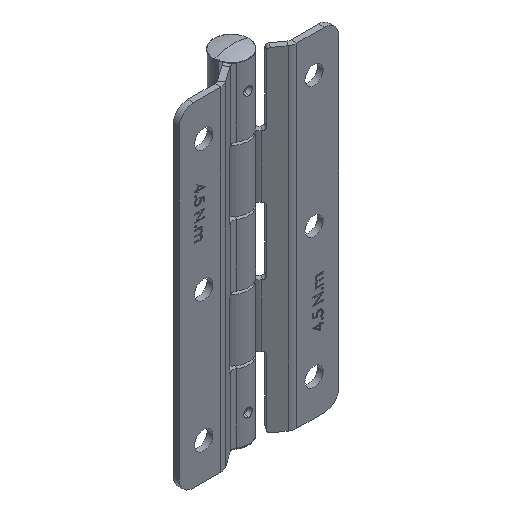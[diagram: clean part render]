
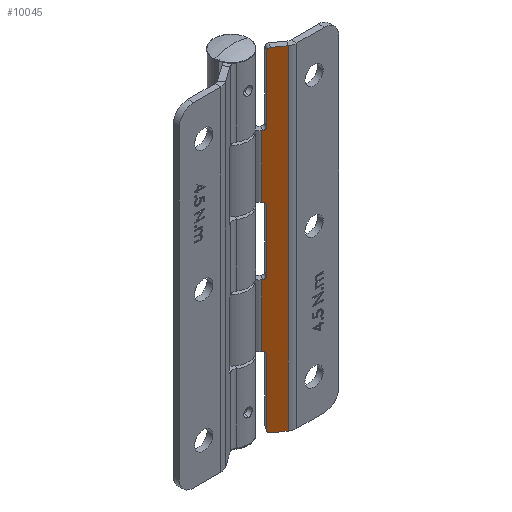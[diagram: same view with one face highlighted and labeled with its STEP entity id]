
A CAD part, isometric view. The second image highlights one B-rep face of the part: STEP entity #10045.
In plain terms, the highlighted planar face has unit normal (-0.574, -0.819, 0).
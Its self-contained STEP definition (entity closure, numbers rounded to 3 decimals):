
#80 = AXIS2_PLACEMENT_3D ( 'NONE', #2752, #7520, #821 ) ;
#105 = EDGE_CURVE ( 'NONE', #864, #7307, #2747, .T. ) ;
#236 = CARTESIAN_POINT ( 'NONE',  ( 5.57, -5.121, -11.575 ) ) ;
#290 = CARTESIAN_POINT ( 'NONE',  ( 6.389, -5.695, 57.5 ) ) ;
#351 = AXIS2_PLACEMENT_3D ( 'NONE', #5646, #8689, #4711 ) ;
#474 = DIRECTION ( 'NONE',  ( 0., 0., -1. ) ) ;
#597 = EDGE_CURVE ( 'NONE', #11586, #11218, #4581, .T. ) ;
#674 = DIRECTION ( 'NONE',  ( 0.819, -0.574, 0. ) ) ;
#691 = CARTESIAN_POINT ( 'NONE',  ( 6.389, -5.695, 10.575 ) ) ;
#704 = EDGE_CURVE ( 'NONE', #7263, #864, #10550, .T. ) ;
#821 = DIRECTION ( 'NONE',  ( -0.819, 0.574, 0. ) ) ;
#864 = VERTEX_POINT ( 'NONE', #5020 ) ;
#1173 = ORIENTED_EDGE ( 'NONE', *, *, #1417, .T. ) ;
#1217 = ORIENTED_EDGE ( 'NONE', *, *, #5138, .T. ) ;
#1363 = CARTESIAN_POINT ( 'NONE',  ( 5.57, -5.121, 33.925 ) ) ;
#1402 = FACE_OUTER_BOUND ( 'NONE', #7353, .T. ) ;
#1417 = EDGE_CURVE ( 'NONE', #10744, #11586, #10141, .T. ) ;
#1433 = EDGE_CURVE ( 'NONE', #7307, #8827, #4839, .T. ) ;
#1483 = CARTESIAN_POINT ( 'NONE',  ( 5.57, -5.121, -33.925 ) ) ;
#1581 = EDGE_CURVE ( 'NONE', #1619, #6875, #6654, .T. ) ;
#1619 = VERTEX_POINT ( 'NONE', #6158 ) ;
#1693 = CARTESIAN_POINT ( 'NONE',  ( 10.791, -8.777, 32.925 ) ) ;
#1724 = CIRCLE ( 'NONE', #11848, 1. ) ;
#1766 = EDGE_CURVE ( 'NONE', #6875, #7531, #5106, .T. ) ;
#1804 = CARTESIAN_POINT ( 'NONE',  ( 10.791, -8.777, -32.925 ) ) ;
#1815 = EDGE_CURVE ( 'NONE', #11086, #3284, #3711, .T. ) ;
#1844 = ORIENTED_EDGE ( 'NONE', *, *, #105, .T. ) ;
#1900 = CARTESIAN_POINT ( 'NONE',  ( 7.208, -6.268, 56.5 ) ) ;
#1939 = ORIENTED_EDGE ( 'NONE', *, *, #2032, .T. ) ;
#2032 = EDGE_CURVE ( 'NONE', #9567, #11086, #4880, .T. ) ;
#2280 = ORIENTED_EDGE ( 'NONE', *, *, #3240, .T. ) ;
#2486 = VERTEX_POINT ( 'NONE', #11515 ) ;
#2732 = VECTOR ( 'NONE', #10732, 1000. ) ;
#2747 = LINE ( 'NONE', #6526, #5246 ) ;
#2752 = CARTESIAN_POINT ( 'NONE',  ( 5.57, -5.121, 10.575 ) ) ;
#2837 = ORIENTED_EDGE ( 'NONE', *, *, #12049, .T. ) ;
#2901 = VECTOR ( 'NONE', #3063, 1000. ) ;
#3029 = CARTESIAN_POINT ( 'NONE',  ( 7.208, -6.268, 57.5 ) ) ;
#3063 = DIRECTION ( 'NONE',  ( 0.819, -0.574, 0. ) ) ;
#3068 = VECTOR ( 'NONE', #11253, 1000. ) ;
#3194 = CARTESIAN_POINT ( 'NONE',  ( 10.791, -8.777, -57.5 ) ) ;
#3201 = CARTESIAN_POINT ( 'NONE',  ( 5.57, -5.121, 32.925 ) ) ;
#3240 = EDGE_CURVE ( 'NONE', #9580, #9567, #1724, .T. ) ;
#3255 = ORIENTED_EDGE ( 'NONE', *, *, #1433, .T. ) ;
#3284 = VERTEX_POINT ( 'NONE', #3201 ) ;
#3327 = CARTESIAN_POINT ( 'NONE',  ( 5.57, -5.121, 11.575 ) ) ;
#3381 = LINE ( 'NONE', #8159, #4623 ) ;
#3494 = VERTEX_POINT ( 'NONE', #8097 ) ;
#3524 = CARTESIAN_POINT ( 'NONE',  ( 5.57, -5.121, -32.925 ) ) ;
#3527 = LINE ( 'NONE', #4279, #10499 ) ;
#3711 = CIRCLE ( 'NONE', #12254, 1. ) ;
#4152 = ORIENTED_EDGE ( 'NONE', *, *, #9993, .F. ) ;
#4218 = DIRECTION ( 'NONE',  ( -0.819, 0.574, 0. ) ) ;
#4279 = CARTESIAN_POINT ( 'NONE',  ( 10.791, -8.777, -11.575 ) ) ;
#4446 = CIRCLE ( 'NONE', #8822, 1. ) ;
#4581 = LINE ( 'NONE', #1804, #7015 ) ;
#4623 = VECTOR ( 'NONE', #474, 1000. ) ;
#4658 = LINE ( 'NONE', #1693, #7814 ) ;
#4707 = DIRECTION ( 'NONE',  ( 0., 0., -1. ) ) ;
#4711 = DIRECTION ( 'NONE',  ( -0.819, 0.574, 0. ) ) ;
#4744 = DIRECTION ( 'NONE',  ( -0.574, -0.819, 0. ) ) ;
#4788 = DIRECTION ( 'NONE',  ( 0., 0., -1. ) ) ;
#4829 = CIRCLE ( 'NONE', #6611, 1. ) ;
#4839 = CIRCLE ( 'NONE', #80, 1. ) ;
#4880 = LINE ( 'NONE', #290, #2732 ) ;
#5020 = CARTESIAN_POINT ( 'NONE',  ( 5.413, -5.011, 11.575 ) ) ;
#5030 = CARTESIAN_POINT ( 'NONE',  ( 6.389, -5.695, 57.5 ) ) ;
#5091 = DIRECTION ( 'NONE',  ( -0.819, 0.574, 0. ) ) ;
#5106 = CIRCLE ( 'NONE', #351, 1. ) ;
#5138 = EDGE_CURVE ( 'NONE', #8827, #6635, #7013, .T. ) ;
#5149 = DIRECTION ( 'NONE',  ( 0.574, 0.819, 0. ) ) ;
#5184 = DIRECTION ( 'NONE',  ( 0.574, 0.819, 0. ) ) ;
#5246 = VECTOR ( 'NONE', #5591, 1000. ) ;
#5327 = EDGE_CURVE ( 'NONE', #9580, #2486, #7368, .T. ) ;
#5366 = EDGE_CURVE ( 'NONE', #8265, #10744, #3527, .T. ) ;
#5498 = VECTOR ( 'NONE', #4788, 1000. ) ;
#5591 = DIRECTION ( 'NONE',  ( 0.819, -0.574, 0. ) ) ;
#5646 = CARTESIAN_POINT ( 'NONE',  ( 7.208, -6.268, -56.5 ) ) ;
#5901 = DIRECTION ( 'NONE',  ( 0., 0., -1. ) ) ;
#5983 = LINE ( 'NONE', #3194, #2901 ) ;
#6158 = CARTESIAN_POINT ( 'NONE',  ( 6.389, -5.695, -33.925 ) ) ;
#6332 = VECTOR ( 'NONE', #5901, 1000. ) ;
#6355 = CARTESIAN_POINT ( 'NONE',  ( 5.413, -5.011, 57.5 ) ) ;
#6411 = AXIS2_PLACEMENT_3D ( 'NONE', #7170, #5184, #8981 ) ;
#6482 = DIRECTION ( 'NONE',  ( -0.819, 0.574, 0. ) ) ;
#6526 = CARTESIAN_POINT ( 'NONE',  ( 10.791, -8.777, 11.575 ) ) ;
#6611 = AXIS2_PLACEMENT_3D ( 'NONE', #7458, #10382, #12128 ) ;
#6635 = VERTEX_POINT ( 'NONE', #11094 ) ;
#6654 = LINE ( 'NONE', #10447, #5498 ) ;
#6718 = CARTESIAN_POINT ( 'NONE',  ( 5.413, -5.011, -32.925 ) ) ;
#6755 = CARTESIAN_POINT ( 'NONE',  ( 6.389, -5.695, 33.925 ) ) ;
#6875 = VERTEX_POINT ( 'NONE', #10692 ) ;
#7013 = LINE ( 'NONE', #5030, #6332 ) ;
#7015 = VECTOR ( 'NONE', #9244, 1000. ) ;
#7170 = CARTESIAN_POINT ( 'NONE',  ( 10.791, -8.777, 57.5 ) ) ;
#7219 = VECTOR ( 'NONE', #4707, 1000. ) ;
#7263 = VERTEX_POINT ( 'NONE', #8791 ) ;
#7307 = VERTEX_POINT ( 'NONE', #3327 ) ;
#7316 = DIRECTION ( 'NONE',  ( -0.819, 0.574, 0. ) ) ;
#7353 = EDGE_LOOP ( 'NONE', ( #7504, #2280, #1939, #11327, #12052, #9643, #1844, #3255, #1217, #8545, #7817, #1173, #8046, #2837, #11331, #8534, #7768, #4152 ) ) ;
#7368 = LINE ( 'NONE', #11047, #8511 ) ;
#7458 = CARTESIAN_POINT ( 'NONE',  ( 5.57, -5.121, -10.575 ) ) ;
#7504 = ORIENTED_EDGE ( 'NONE', *, *, #5327, .F. ) ;
#7520 = DIRECTION ( 'NONE',  ( 0.574, 0.819, 0. ) ) ;
#7531 = VERTEX_POINT ( 'NONE', #10330 ) ;
#7691 = CARTESIAN_POINT ( 'NONE',  ( 5.413, -5.011, 57.5 ) ) ;
#7727 = EDGE_CURVE ( 'NONE', #7531, #3494, #5983, .T. ) ;
#7768 = ORIENTED_EDGE ( 'NONE', *, *, #7727, .T. ) ;
#7814 = VECTOR ( 'NONE', #8269, 1000. ) ;
#7817 = ORIENTED_EDGE ( 'NONE', *, *, #5366, .T. ) ;
#8046 = ORIENTED_EDGE ( 'NONE', *, *, #597, .T. ) ;
#8097 = CARTESIAN_POINT ( 'NONE',  ( 10.791, -8.777, -57.5 ) ) ;
#8102 = PLANE ( 'NONE',  #6411 ) ;
#8159 = CARTESIAN_POINT ( 'NONE',  ( 10.791, -8.777, 57.5 ) ) ;
#8265 = VERTEX_POINT ( 'NONE', #236 ) ;
#8269 = DIRECTION ( 'NONE',  ( -0.819, 0.574, 0. ) ) ;
#8511 = VECTOR ( 'NONE', #674, 1000. ) ;
#8534 = ORIENTED_EDGE ( 'NONE', *, *, #1766, .T. ) ;
#8545 = ORIENTED_EDGE ( 'NONE', *, *, #10702, .T. ) ;
#8689 = DIRECTION ( 'NONE',  ( -0.574, -0.819, 0. ) ) ;
#8745 = CARTESIAN_POINT ( 'NONE',  ( 6.389, -5.695, 56.5 ) ) ;
#8791 = CARTESIAN_POINT ( 'NONE',  ( 5.413, -5.011, 32.925 ) ) ;
#8822 = AXIS2_PLACEMENT_3D ( 'NONE', #1483, #9875, #5091 ) ;
#8827 = VERTEX_POINT ( 'NONE', #691 ) ;
#8832 = CARTESIAN_POINT ( 'NONE',  ( 5.413, -5.011, -11.575 ) ) ;
#8981 = DIRECTION ( 'NONE',  ( -0.819, 0.574, 0. ) ) ;
#9244 = DIRECTION ( 'NONE',  ( 0.819, -0.574, 0. ) ) ;
#9567 = VERTEX_POINT ( 'NONE', #8745 ) ;
#9580 = VERTEX_POINT ( 'NONE', #3029 ) ;
#9643 = ORIENTED_EDGE ( 'NONE', *, *, #704, .T. ) ;
#9875 = DIRECTION ( 'NONE',  ( 0.574, 0.819, 0. ) ) ;
#9993 = EDGE_CURVE ( 'NONE', #2486, #3494, #3381, .T. ) ;
#10045 = ADVANCED_FACE ( 'NONE', ( #1402 ), #8102, .F. ) ;
#10141 = LINE ( 'NONE', #6355, #3068 ) ;
#10330 = CARTESIAN_POINT ( 'NONE',  ( 7.208, -6.268, -57.5 ) ) ;
#10382 = DIRECTION ( 'NONE',  ( 0.574, 0.819, 0. ) ) ;
#10447 = CARTESIAN_POINT ( 'NONE',  ( 6.389, -5.695, 57.5 ) ) ;
#10499 = VECTOR ( 'NONE', #7316, 1000. ) ;
#10550 = LINE ( 'NONE', #7691, #7219 ) ;
#10603 = EDGE_CURVE ( 'NONE', #3284, #7263, #4658, .T. ) ;
#10692 = CARTESIAN_POINT ( 'NONE',  ( 6.389, -5.695, -56.5 ) ) ;
#10702 = EDGE_CURVE ( 'NONE', #6635, #8265, #4829, .T. ) ;
#10732 = DIRECTION ( 'NONE',  ( 0., 0., -1. ) ) ;
#10744 = VERTEX_POINT ( 'NONE', #8832 ) ;
#11047 = CARTESIAN_POINT ( 'NONE',  ( 10.791, -8.777, 57.5 ) ) ;
#11086 = VERTEX_POINT ( 'NONE', #6755 ) ;
#11094 = CARTESIAN_POINT ( 'NONE',  ( 6.389, -5.695, -10.575 ) ) ;
#11218 = VERTEX_POINT ( 'NONE', #3524 ) ;
#11253 = DIRECTION ( 'NONE',  ( 0., 0., -1. ) ) ;
#11327 = ORIENTED_EDGE ( 'NONE', *, *, #1815, .T. ) ;
#11331 = ORIENTED_EDGE ( 'NONE', *, *, #1581, .T. ) ;
#11515 = CARTESIAN_POINT ( 'NONE',  ( 10.791, -8.777, 57.5 ) ) ;
#11586 = VERTEX_POINT ( 'NONE', #6718 ) ;
#11848 = AXIS2_PLACEMENT_3D ( 'NONE', #1900, #4744, #6482 ) ;
#12049 = EDGE_CURVE ( 'NONE', #11218, #1619, #4446, .T. ) ;
#12052 = ORIENTED_EDGE ( 'NONE', *, *, #10603, .T. ) ;
#12128 = DIRECTION ( 'NONE',  ( -0.819, 0.574, 0. ) ) ;
#12254 = AXIS2_PLACEMENT_3D ( 'NONE', #1363, #5149, #4218 ) ;
